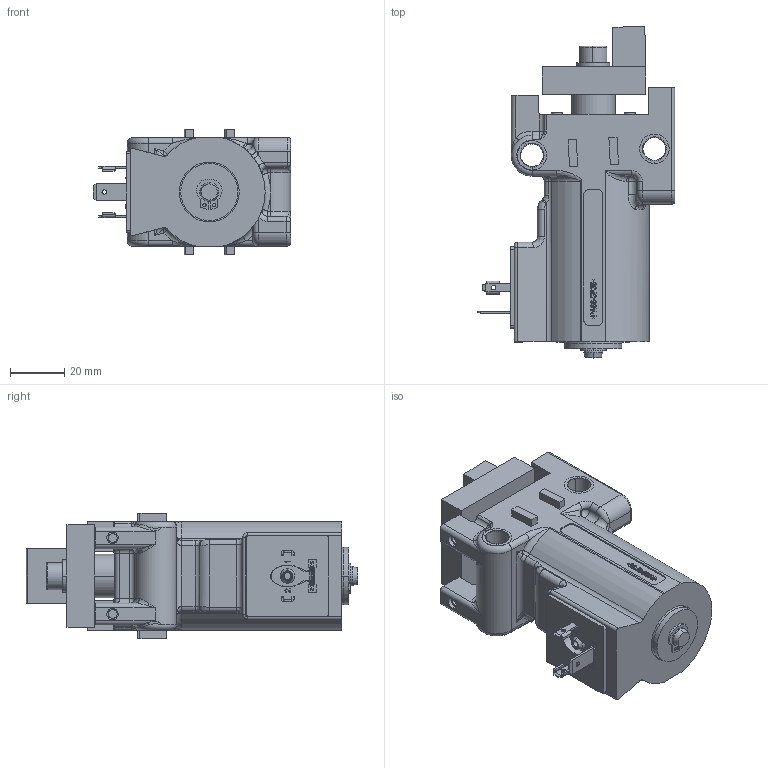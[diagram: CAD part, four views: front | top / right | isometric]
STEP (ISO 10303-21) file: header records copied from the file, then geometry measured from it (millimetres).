
FILE_DESCRIPTION((''),'2;1');
FILE_NAME('VEREINZELER_TS2PLUS_ASM','2023-03-30T13:41:13',('j.happel'),(''),'CREO PARAMETRIC BY PTC INC, 2020044','CREO PARAMETRIC BY PTC INC, 2020044','');
FILE_SCHEMA(('AUTOMOTIVE_DESIGN { 1 0 10303 214 1 1 1 1 }'));
Products named in the file (54): 100000068852_Z03_000_1_1_AF1; 100000068852_Z03_000_1_2_AF1; 100000068852_Z03_000_1_3_AF1; 100000068852_Z03_000_1_4; 100000068852_Z03_000_1_5; 100000068852_Z03_000_1_6; 100000068852_Z03_000_1_7; 100000068852_Z03_000_1_8; 100000068852_Z03_000_1_9_AF1; 100000068852_Z03_000_1_10_AF1; 100000068852_Z03_000_1_11_AF1; 100000068852_Z03_000_1_AF1_ASM; 100000060237_Z03_000_1_AF2; 100000060260_Z03_000_1_1_AF2; 100000060260_Z03_000_1_2_AF2; 100000060260_Z03_000_1_3_AF2; 100000060260_Z03_000_1_AF2_ASM; 100000060315_Z03_000_ASM_1_AF2_ASM; 100000066740_Z03_000_1_1_AF2; 100000066740_Z03_000_1_2_AF2; 100000066740_Z03_000_1_AF2_ASM; 100000060316_Z03_000_ASM_1_AF2_ASM; 100000060378_Z03_000_1_AF2; 100000058728_Z03_000_1_AF4; 100000070295_Z03_000_ASM_1_AF2_ASM; 100000060903_Z03_000_1_AF2; 100000060488_Z03_000_1; 100000060956_Z03_000_1; 100000060957_Z03_000_ASM_1_AF2_ASM; 100000060889_Z03_000_1_AF2; 100000058728_Z03_000_1_AF5; 100000070293_Z03_000_ASM_1_AF2_ASM; 100000070294_Z03_000_ASM_1_AF2_ASM; 100000036703_Z03_000_1_AF4; 100000036703_Z03_000_1_AF5; 100000068769_Z03_000_2_AF1; 100000068853_Z03_000_ASM_1_AF1_ASM; 100000072605_Z03_000_1_AF2; 100000072604_Z03_000_1_AF2; 100000069715_Z03_000_1_AF8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
Assembly tree (53 placements, depth 10):
  VEREINZELER_TS2PLUS_ASM
    100000072606_Z03_000_ASM_2_AF1_ASM
      100000068853_Z03_000_ASM_1_AF1_ASM
        100000068852_Z03_000_1_AF1_ASM
          100000068852_Z03_000_1_1_AF1
          100000068852_Z03_000_1_2_AF1
          100000068852_Z03_000_1_3_AF1
          100000068852_Z03_000_1_4
          100000068852_Z03_000_1_5
          100000068852_Z03_000_1_6
          100000068852_Z03_000_1_7
          100000068852_Z03_000_1_8
          100000068852_Z03_000_1_9_AF1
          100000068852_Z03_000_1_10_AF1
          100000068852_Z03_000_1_11_AF1
        100000070294_Z03_000_ASM_1_AF2_ASM
          100000070293_Z03_000_ASM_1_AF2_ASM
            100000070295_Z03_000_ASM_1_AF2_ASM
              100000060316_Z03_000_ASM_1_AF2_ASM
                100000060315_Z03_000_ASM_1_AF2_ASM
                  100000060237_Z03_000_1_AF2
                  100000060260_Z03_000_1_AF2_ASM
                100000066740_Z03_000_1_AF2_ASM
                  100000066740_Z03_000_1_1_AF2
                  100000066740_Z03_000_1_2_AF2
              100000060378_Z03_000_1_AF2
              100000058728_Z03_000_1_AF4
            100000060957_Z03_000_ASM_1_AF2_ASM
              100000060903_Z03_000_1_AF2
              100000060488_Z03_000_1
              100000060956_Z03_000_1
            100000060889_Z03_000_1_AF2
            100000058728_Z03_000_1_AF5
        100000036703_Z03_000_1_AF4
        100000036703_Z03_000_1_AF5
        100000068769_Z03_000_2_AF1
      100000072605_Z03_000_1_AF2
      100000072604_Z03_000_1_AF2
      100000069715_Z03_000_1_AF8
      100000069715_Z03_000_1_AF9
      100000069715_Z03_000_1_AF10
      100000069715_Z03_000_1_AF11
      100000069506_Z03_000_ASM_1_AF1_ASM
        100000068902_Z03_000_1_AF2
        100000069502_Z03_000_1
        100000072549_Z03_000_1
        100000069503_Z03_000_1
      100000072614_Z03_000_1
      100000068752_Z03_000_1
      100000068754_Z03_000_1_AF2
      100000072640_Z03_000_1_AF1
Bounding box: 72.49 x 121.95 x 46 mm (x, y, z)
Volume: 80788.1 mm3; surface area: 57935 mm2
Topology: 31 solids, 31 shells, 3433 faces, 9505 edges, 6218 vertices
Faces by surface type: plane 2445, cylinder 560, bspline 234, torus 87, cone 58, sphere 43, extrusion 6
Entity records: 153030 total; most frequent: CARTESIAN_POINT 38076, ORIENTED_EDGE 18928, DIRECTION 16656, EDGE_CURVE 9464, VECTOR 7388, LINE 7382, PRESENTATION_STYLE_ASSIGNMENT 7099, STYLED_ITEM 7036
